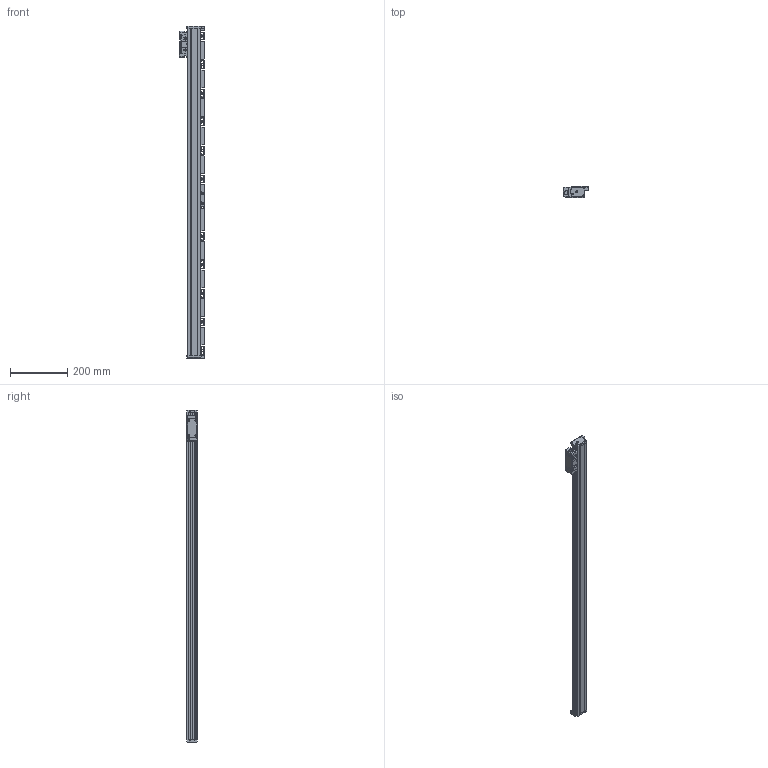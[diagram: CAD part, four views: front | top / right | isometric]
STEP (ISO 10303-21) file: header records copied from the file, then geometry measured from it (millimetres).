
FILE_DESCRIPTION(/* description */ (''),/* implementation_level */ '2;1');
FILE_NAME(/* name */ 'JC21A-1040-1.stp',/* time_stamp */ '2023-12-21T16:39:07+08:00',/* author */ (''),/* organization */ (''),/* preprocessor_version */ 'ST-DEVELOPER v14',/* originating_system */ 'SIEMENS PLM Software NX 8.0',/* authorisation */ '');
FILE_SCHEMA (('CONFIG_CONTROL_DESIGN'));
Length unit declared in the file: millimetre
Products named in the file (1): JC21A-1040-1
Bounding box: 87.5 x 37 x 1161 mm (x, y, z)
Volume: 1851717.9 mm3; surface area: 311723.5 mm2
Topology: 4 solids, 6 shells, 807 faces, 2364 edges, 1569 vertices
Faces by surface type: plane 502, cylinder 273, cone 22, bspline 8, extrusion 2
Full cylindrical faces by diameter (mm): 2.5 x12, 3.3 x6, 3.7 x4, 4.2 x4, 5 x2, 6 x6, 6.6 x2, 6.8 x14, 7 x2, 13.2 x2
Entity records: 27183 total; most frequent: CARTESIAN_POINT 5523, ORIENTED_EDGE 4516, DIRECTION 4466, EDGE_CURVE 2258, VERTEX_POINT 1539, VECTOR 1492, LINE 1490, AXIS2_PLACEMENT_3D 1487
